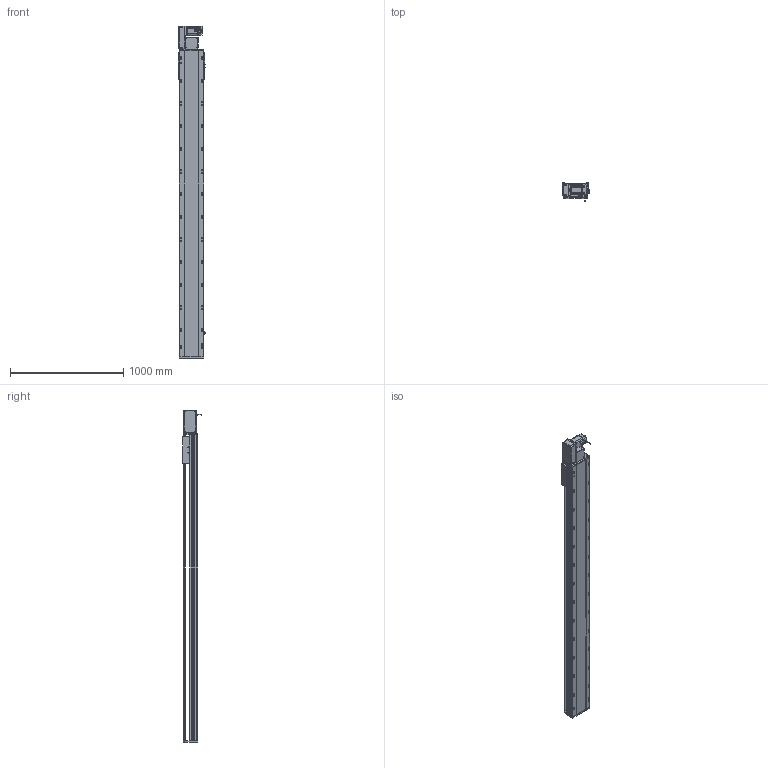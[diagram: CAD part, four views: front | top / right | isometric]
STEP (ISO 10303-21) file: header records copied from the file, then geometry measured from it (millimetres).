
FILE_DESCRIPTION (( 'STEP AP214' ), '1' );
FILE_NAME ('RTB22S-XX-2350-L-M75-C4.STEP', '2025-12-12T03:26:43', ( '' ), ( '' ), 'SwSTEP 2.0', 'SolidWorks 2018', '' );
FILE_SCHEMA (( 'AUTOMOTIVE_DESIGN' ));
Length unit declared in the file: millimetre
Products named in the file (14): RTB22S-GY-005P^RTB22S-L-々湍釱蚾饜_RTB22S-XX-XX-L-M75-C4; OMRON EE-SX672 传感器^RTB22S-XX-XX-L-M75-C4; RTB22S-GY-017P^RTB22S-L-々湍釱蚾饜_RTB22S-XX-XX-L-M75-C4; RTB22S-L-004賑釱^RTB22S-XX-XX-L-M75-C4; RTB22S-GY-008-M75--萇儂啣^RTB22S-L-々湍釱蚾饜_RTB22S-XX-XX-L-M75-C4; 750W萇儂^RTB22S-XX-XX-L-M75-C4; RTB22S-GY-007奻裔^RTB22S-XX-XX-L-M75-C4; RTB22S-L-々湍釱蚾饜^RTB22S-XX-XX-L-M75-C4; RTB22S-GY-001耜裔^RTB22S-XX-XX-L-M75-C4; RTB22S-GY-014--々湍釱^RTB22S-L-々湍釱蚾饜_RTB22S-XX-XX-L-M75-C4; RTB22S-GY-018P^RTB22S-L-々湍釱蚾饜_RTB22S-XX-XX-L-M75-C4; RTH22-GY-013外置感应片^RTB22S-XX-XX-L-M75-C4; RTB22S-L-011菁釱^RTB22S-XX-XX-L-M75-C4; RTB22S-XX-2350-L-M75-C4
Assembly tree (16 placements, depth 3):
  RTB22S-XX-2350-L-M75-C4
    RTB22S-L-011菁釱^RTB22S-XX-XX-L-M75-C4
    750W萇儂^RTB22S-XX-XX-L-M75-C4
    RTB22S-L-004賑釱^RTB22S-XX-XX-L-M75-C4
    OMRON EE-SX672 传感器^RTB22S-XX-XX-L-M75-C4  x3
    RTH22-GY-013外置感应片^RTB22S-XX-XX-L-M75-C4
    RTB22S-GY-007奻裔^RTB22S-XX-XX-L-M75-C4
    RTB22S-GY-001耜裔^RTB22S-XX-XX-L-M75-C4
    RTB22S-L-々湍釱蚾饜^RTB22S-XX-XX-L-M75-C4
      RTB22S-GY-014--々湍釱^RTB22S-L-々湍釱蚾饜_RTB22S-XX-XX-L-M75-C4
      RTB22S-GY-017P^RTB22S-L-々湍釱蚾饜_RTB22S-XX-XX-L-M75-C4  x2
      RTB22S-GY-005P^RTB22S-L-々湍釱蚾饜_RTB22S-XX-XX-L-M75-C4
      RTB22S-GY-008-M75--萇儂啣^RTB22S-L-々湍釱蚾饜_RTB22S-XX-XX-L-M75-C4
      RTB22S-GY-018P^RTB22S-L-々湍釱蚾饜_RTB22S-XX-XX-L-M75-C4
Bounding box: 238.5 x 162.7 x 2929 mm (x, y, z)
Volume: 37017783.9 mm3; surface area: 3788727.3 mm2
Topology: 15 solids, 15 shells, 2091 faces, 5686 edges, 3632 vertices
Faces by surface type: plane 927, cylinder 694, bspline 296, cone 162, sphere 8, torus 4
Entity records: 56716 total; most frequent: CARTESIAN_POINT 16060, ORIENTED_EDGE 8112, DIRECTION 7910, EDGE_CURVE 4056, AXIS2_PLACEMENT_3D 2830, VERTEX_POINT 2636, LINE 2250, VECTOR 2250
